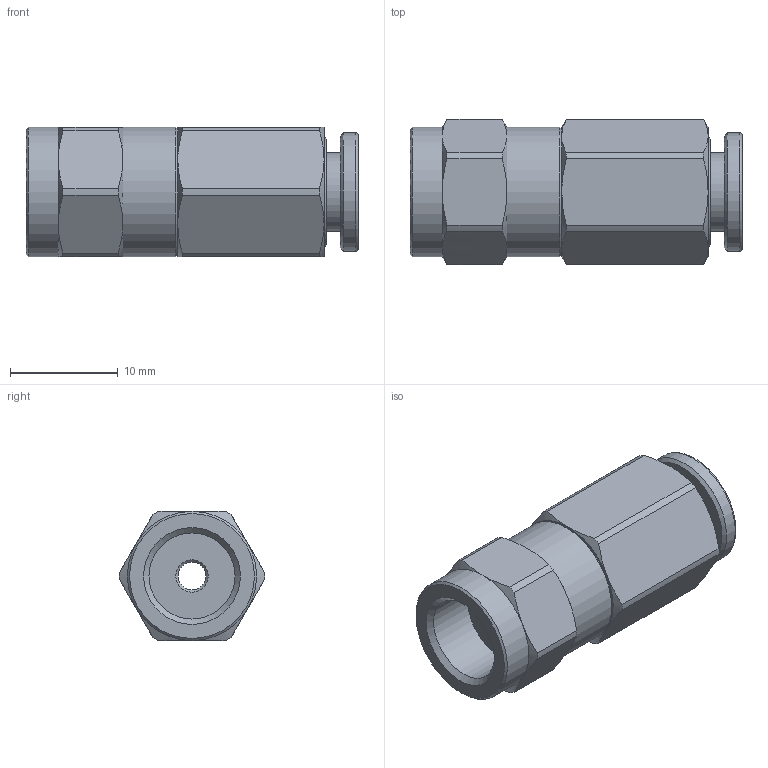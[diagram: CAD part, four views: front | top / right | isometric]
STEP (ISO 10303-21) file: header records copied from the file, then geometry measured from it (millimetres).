
FILE_DESCRIPTION(('STEP AP214'),'1');
FILE_NAME('BVP-10-B30.stp','2026-02-02T08:20:44',(' '),(' '),'Spatial InterOp 3D',' ',' ');
FILE_SCHEMA(('AUTOMOTIVE_DESIGN { 1 0 10303 214 1 1 1 1 }'));
Length unit declared in the file: millimetre
Products named in the file (7): BVP-10-B30; 1; 2; 3; SQC0602:1; SQC0603:1; SQC0604:1
Assembly tree (6 placements, depth 3):
  BVP-10-B30
    1
    2
    3
      SQC0602:1
      SQC0603:1
      SQC0604:1
Bounding box: 30.85 x 13.5 x 12 mm (x, y, z)
Volume: 2324.1 mm3; surface area: 3404.6 mm2
Topology: 5 solids, 5 shells, 330 faces, 916 edges, 609 vertices
Faces by surface type: cone 113, cylinder 108, plane 83, torus 26
Full cylindrical faces by diameter (mm): 2.6 x2, 4.7 x1, 6.25 x1, 6.4 x1, 7 x1, 7.3 x1, 7.5 x1, 7.75 x2, 7.8 x1, 8 x1, 8.1 x2, 9.1 x1, 9.2 x1, 10 x1, 10.1 x1, 10.25 x1, 10.8 x1, 10.9 x1, 11 x1, 12 x2
Entity records: 18127 total; most frequent: CARTESIAN_POINT 3672, ORIENTED_EDGE 1710, DIRECTION 1377, STYLED_ITEM 1146, PRESENTATION_STYLE_ASSIGNMENT 1146, COLOUR_RGB 1146, EDGE_CURVE 855, CURVE_STYLE 812
